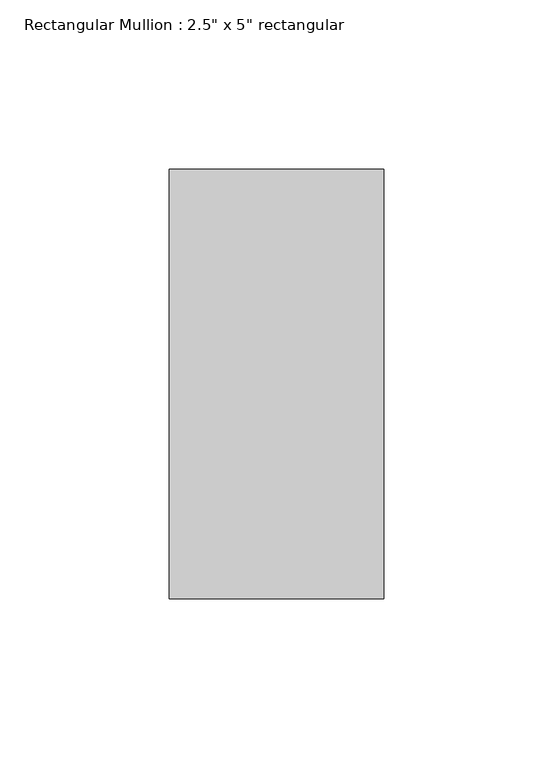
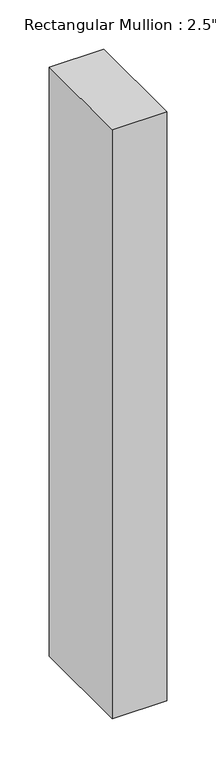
"""IFC4 building model written with IfcOpenShell, lengths in millimetres: member geometry."""

from ifc_helpers import new_model, si_unit, frame, origin, place, context, project, spatial, polyline, outline, extrude, source, transform, mapped, element, save


def member_b8a9be14(model_context):
    return source(origin(), model_context, "Body", "SweptSolid", [
        extrude(outline(polyline([(0.0, 63.5), (0.0, -63.5), (-63.5, -63.5), (-63.5, 63.5), (0.0, 63.5)])), frame((0.0, 0.0, -727.0841402), z_axis=(0.0, 0.0, 1.0), x_axis=(1.0, 0.0, 0.0)), (0.0, 0.0, 1.0), 727.0841402),
    ])


if __name__ == "__main__":
    model = new_model("IFC4")
    model_context = context("Model", 3, world=origin())
    ifc_project = project(units=[si_unit("LENGTHUNIT", "METRE", prefix="MILLI")], contexts=[model_context])
    site = spatial("IfcSite", under=ifc_project)
    building = spatial("IfcBuilding", under=site)
    placement = place(None, origin())
    member_shape = member_b8a9be14(model_context)
    element("IfcMember", 1, ObjectType="Rectangular Mullion : 2.5\" x 5\" rectangular", at=placement, inside=building, context=model_context, shape_type="MappedRepresentation", body=[
        mapped(member_shape, transform((0.0, 0.0, 0.0), x_axis=(1.0, 0.0, 0.0), y_axis=(0.0, 1.0, 0.0), z_axis=(0.0, 0.0, 1.0))),
    ])
    save(model, "model.ifc")
